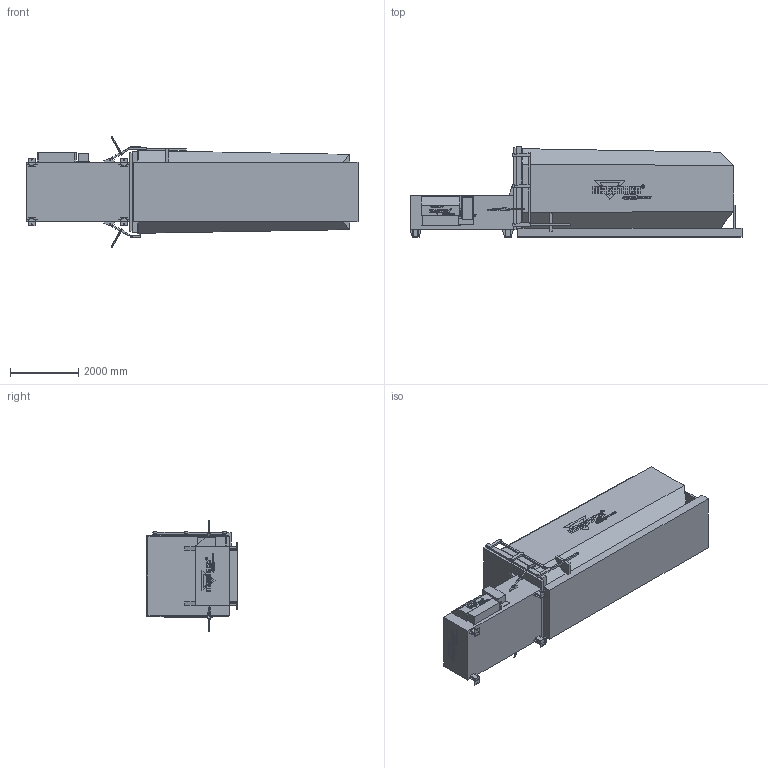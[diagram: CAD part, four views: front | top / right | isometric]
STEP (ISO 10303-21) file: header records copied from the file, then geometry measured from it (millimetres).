
FILE_DESCRIPTION((''),'2;1');
FILE_NAME('75349_ASM','2018-10-01T18:06:29',('10066402'),('HEIL Environmental Industries, Ltd.'),'CREO PARAMETRIC BY PTC INC, 2017110','CREO PARAMETRIC BY PTC INC, 2017110','');
FILE_SCHEMA(('CONFIG_CONTROL_DESIGN'));
Products named in the file (4): STRUCTURE_75349; OCT_CONTENOR_75349; POWER_PACK_75349; 75349_ASM
Assembly tree (3 placements, depth 2):
  75349_ASM
    STRUCTURE_75349
    OCT_CONTENOR_75349
    POWER_PACK_75349
Bounding box: 9734.61 x 2641.6 x 3246.36 mm (x, y, z)
Volume: 38395438771.9 mm3; surface area: 129368025.3 mm2
Topology: 4 solids, 8 shells, 4767 faces, 13108 edges, 8714 vertices
Faces by surface type: plane 4369, cylinder 398
Entity records: 149089 total; most frequent: CARTESIAN_POINT 26680, ORIENTED_EDGE 26216, DIRECTION 23461, EDGE_CURVE 13108, VECTOR 12255, LINE 12255, VERTEX_POINT 8714, AXIS2_PLACEMENT_3D 5603
